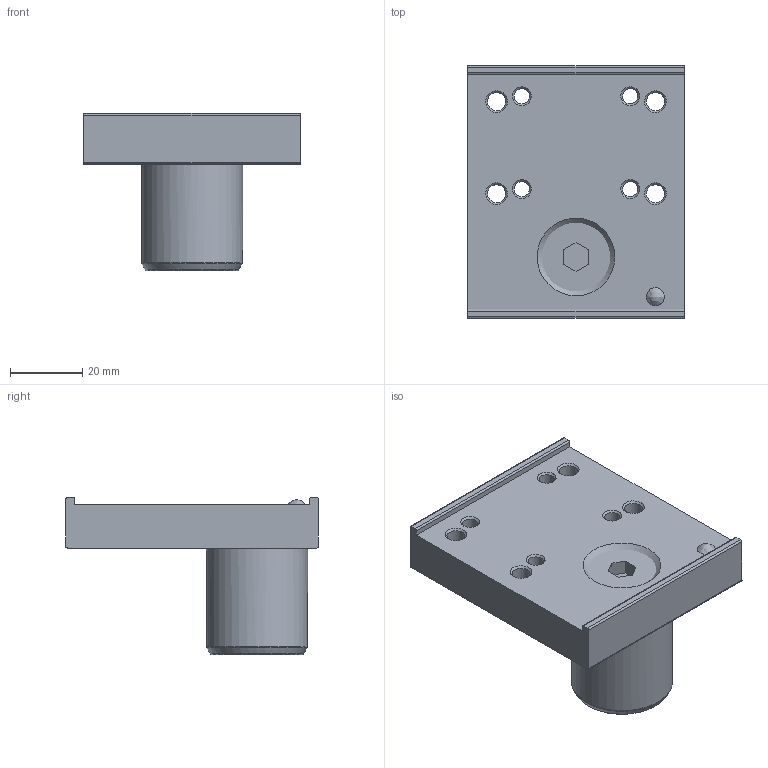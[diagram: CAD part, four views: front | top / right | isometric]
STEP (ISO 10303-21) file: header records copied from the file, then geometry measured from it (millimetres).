
FILE_DESCRIPTION( ('This file contains a STEP AP42 implementation' ,'as created by ZW3D STEP Interface translator.') ,'2;1' );
FILE_NAME( 'TW28A-STC.stp' ,'14 411.135647', (''), ('ZWCAD Software Co.'), 'Version 1.0', 'ZW3D to STEP translator', '' );
FILE_SCHEMA( ('CONFIG_CONTROL_DESIGN') );
Length unit declared in the file: millimetre
Products named in the file (8): 0; TW28A-STC; 3205309_TW28A-STC; 3101671_Aluprofil TW28-STC_kpl; 3008839a; 3008850a_Kerbnagel; 3008827a_Steckbolzen TW28; 3008851_Sch.M10x22 DIN7991
Assembly tree (6 placements, depth 4):
  0
  TW28A-STC
    3205309_TW28A-STC
      3101671_Aluprofil TW28-STC_kpl
        3008839a
        3008850a_Kerbnagel
      3008827a_Steckbolzen TW28
      3008851_Sch.M10x22 DIN7991
Bounding box: 60 x 70 x 43.5 mm (x, y, z)
Volume: 67113 mm3; surface area: 19312.6 mm2
Topology: 4 solids, 5 shells, 77 faces, 174 edges, 105 vertices
Faces by surface type: bspline 77
Entity records: 4641 total; most frequent: CARTESIAN_POINT 3342, ORIENTED_EDGE 342, EDGE_CURVE 172, VERTEX_POINT 105, B_SPLINE_CURVE_WITH_KNOTS 100, EDGE_LOOP 100, FACE_OUTER_BOUND 77, ADVANCED_FACE 77
